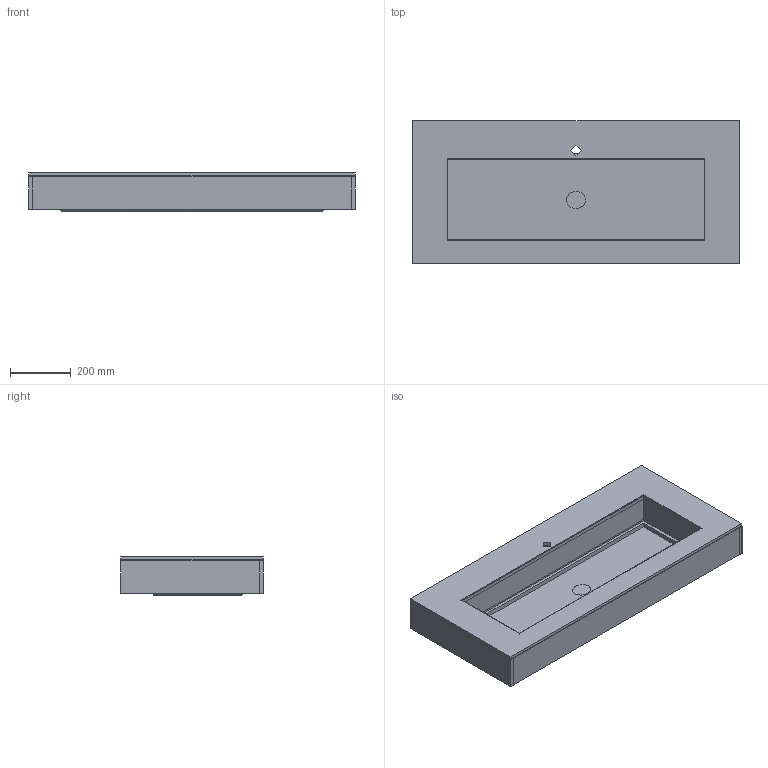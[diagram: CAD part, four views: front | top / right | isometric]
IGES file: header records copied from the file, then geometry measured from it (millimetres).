
Start section: Data from Parasolid IGES Translator 22.0.50, Copyright(c) 2006 Siemens P LM Software. All Rights Reserved.
Global section: file name: noorth-top-H 12 D 47,2 W 108_4370.igs; native system: By Siemens PLM Incorporated; preprocessor: XPlus GENERIC/IGES 22.0.50; author: Noname; organization: Noname; date: 20251109.150007; units: metre
Bounding box: 1080 x 472 x 129.29 mm (x, y, z)
Volume: 20725878.5 mm3; surface area: 2497846.6 mm2
Topology: 12 solids, 12 shells, 115 faces, 257 edges, 183 vertices
Faces by surface type: plane 97, bspline 9, extrusion 8, cylinder 1
Full cylindrical faces by diameter (mm): 34.697 x1
